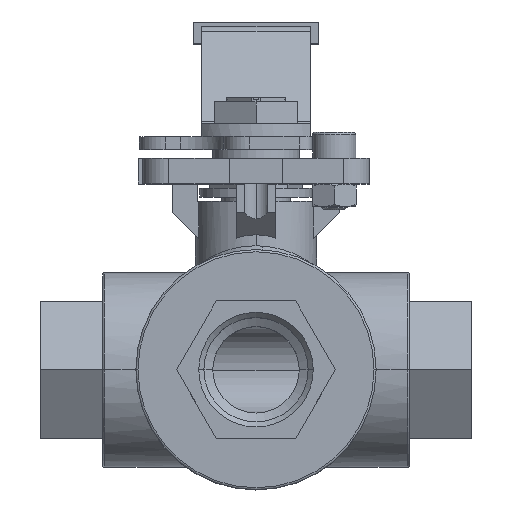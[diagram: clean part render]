
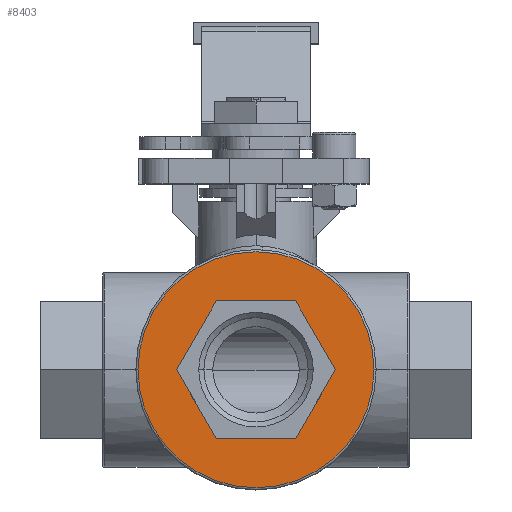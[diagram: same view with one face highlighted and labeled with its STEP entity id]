
A CAD part, top view. The second image highlights one B-rep face of the part: STEP entity #8403.
In plain terms, the highlighted planar face has unit normal (0, 0, 1).
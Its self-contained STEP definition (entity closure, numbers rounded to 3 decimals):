
#70 = ORIENTED_EDGE ( 'NONE', *, *, #278, .F. ) ;
#93 = CARTESIAN_POINT ( 'NONE',  ( 18.36, 0., 35.35 ) ) ;
#278 = EDGE_CURVE ( 'NONE', #7879, #4400, #1746, .T. ) ;
#404 = CARTESIAN_POINT ( 'NONE',  ( 9.18, 15.9, 35.35 ) ) ;
#1745 = DIRECTION ( 'NONE',  ( -1., 0., 0. ) ) ;
#1746 = LINE ( 'NONE', #3525, #6724 ) ;
#1812 = ORIENTED_EDGE ( 'NONE', *, *, #3030, .F. ) ;
#1962 = CARTESIAN_POINT ( 'NONE',  ( 27.3, 0., 35.35 ) ) ;
#2041 = CARTESIAN_POINT ( 'NONE',  ( -9.18, 15.9, 35.35 ) ) ;
#2604 = DIRECTION ( 'NONE',  ( -0.5, 0.866, 0. ) ) ;
#2624 = VECTOR ( 'NONE', #5243, 1000. ) ;
#3030 = EDGE_CURVE ( 'NONE', #3681, #5944, #9713, .T. ) ;
#3096 = PLANE ( 'NONE',  #11505 ) ;
#3258 = EDGE_CURVE ( 'NONE', #10249, #8003, #12798, .T. ) ;
#3288 = CARTESIAN_POINT ( 'NONE',  ( -9.18, -15.9, 35.35 ) ) ;
#3525 = CARTESIAN_POINT ( 'NONE',  ( 18.36, 0., 35.35 ) ) ;
#3578 = EDGE_LOOP ( 'NONE', ( #8166, #9678 ) ) ;
#3681 = VERTEX_POINT ( 'NONE', #12238 ) ;
#4146 = CARTESIAN_POINT ( 'NONE',  ( 0., 0., 35.35 ) ) ;
#4288 = DIRECTION ( 'NONE',  ( 1., 0., 0. ) ) ;
#4400 = VERTEX_POINT ( 'NONE', #404 ) ;
#4825 = DIRECTION ( 'NONE',  ( 0., 0., 1. ) ) ;
#4837 = VECTOR ( 'NONE', #4288, 1000. ) ;
#4890 = ORIENTED_EDGE ( 'NONE', *, *, #10697, .F. ) ;
#5132 = DIRECTION ( 'NONE',  ( 1., 0., 0. ) ) ;
#5243 = DIRECTION ( 'NONE',  ( 0.5, 0.866, 0. ) ) ;
#5305 = CARTESIAN_POINT ( 'NONE',  ( 0., 0., 35.35 ) ) ;
#5442 = CARTESIAN_POINT ( 'NONE',  ( -9.18, -15.9, 35.35 ) ) ;
#5574 = LINE ( 'NONE', #10244, #2624 ) ;
#5778 = FACE_BOUND ( 'NONE', #7848, .T. ) ;
#5944 = VERTEX_POINT ( 'NONE', #11102 ) ;
#6028 = CARTESIAN_POINT ( 'NONE',  ( -18.36, 0., 35.35 ) ) ;
#6275 = CARTESIAN_POINT ( 'NONE',  ( 9.18, -15.9, 35.35 ) ) ;
#6315 = ORIENTED_EDGE ( 'NONE', *, *, #7225, .F. ) ;
#6329 = DIRECTION ( 'NONE',  ( 1., 0., 0. ) ) ;
#6699 = VERTEX_POINT ( 'NONE', #1962 ) ;
#6724 = VECTOR ( 'NONE', #2604, 1000. ) ;
#6897 = AXIS2_PLACEMENT_3D ( 'NONE', #5305, #12311, #6329 ) ;
#7224 = LINE ( 'NONE', #7714, #12533 ) ;
#7225 = EDGE_CURVE ( 'NONE', #4400, #3681, #7224, .T. ) ;
#7282 = EDGE_CURVE ( 'NONE', #6699, #8735, #9879, .T. ) ;
#7505 = FACE_OUTER_BOUND ( 'NONE', #3578, .T. ) ;
#7714 = CARTESIAN_POINT ( 'NONE',  ( 9.18, 15.9, 35.35 ) ) ;
#7848 = EDGE_LOOP ( 'NONE', ( #70, #4890, #11569, #10248, #1812, #6315 ) ) ;
#7879 = VERTEX_POINT ( 'NONE', #93 ) ;
#8003 = VERTEX_POINT ( 'NONE', #6275 ) ;
#8166 = ORIENTED_EDGE ( 'NONE', *, *, #7282, .T. ) ;
#8403 = ADVANCED_FACE ( 'NONE', ( #7505, #5778 ), #3096, .T. ) ;
#8480 = AXIS2_PLACEMENT_3D ( 'NONE', #10823, #4825, #11830 ) ;
#8735 = VERTEX_POINT ( 'NONE', #10691 ) ;
#9012 = EDGE_CURVE ( 'NONE', #8735, #6699, #10164, .T. ) ;
#9500 = DIRECTION ( 'NONE',  ( -0.5, -0.866, 0. ) ) ;
#9678 = ORIENTED_EDGE ( 'NONE', *, *, #9012, .T. ) ;
#9713 = LINE ( 'NONE', #2041, #10019 ) ;
#9858 = VECTOR ( 'NONE', #10065, 1000. ) ;
#9879 = CIRCLE ( 'NONE', #8480, 27.3 ) ;
#10019 = VECTOR ( 'NONE', #9500, 1000. ) ;
#10065 = DIRECTION ( 'NONE',  ( 0.5, -0.866, 0. ) ) ;
#10164 = CIRCLE ( 'NONE', #6897, 27.3 ) ;
#10244 = CARTESIAN_POINT ( 'NONE',  ( 9.18, -15.9, 35.35 ) ) ;
#10248 = ORIENTED_EDGE ( 'NONE', *, *, #12482, .F. ) ;
#10249 = VERTEX_POINT ( 'NONE', #5442 ) ;
#10691 = CARTESIAN_POINT ( 'NONE',  ( -27.3, 0., 35.35 ) ) ;
#10697 = EDGE_CURVE ( 'NONE', #8003, #7879, #5574, .T. ) ;
#10823 = CARTESIAN_POINT ( 'NONE',  ( 0., 0., 35.35 ) ) ;
#11102 = CARTESIAN_POINT ( 'NONE',  ( -18.36, 0., 35.35 ) ) ;
#11143 = DIRECTION ( 'NONE',  ( 0., 0., 1. ) ) ;
#11505 = AXIS2_PLACEMENT_3D ( 'NONE', #4146, #11143, #5132 ) ;
#11569 = ORIENTED_EDGE ( 'NONE', *, *, #3258, .F. ) ;
#11830 = DIRECTION ( 'NONE',  ( 1., 0., 0. ) ) ;
#12238 = CARTESIAN_POINT ( 'NONE',  ( -9.18, 15.9, 35.35 ) ) ;
#12311 = DIRECTION ( 'NONE',  ( 0., 0., 1. ) ) ;
#12482 = EDGE_CURVE ( 'NONE', #5944, #10249, #12514, .T. ) ;
#12514 = LINE ( 'NONE', #6028, #9858 ) ;
#12533 = VECTOR ( 'NONE', #1745, 1000. ) ;
#12798 = LINE ( 'NONE', #3288, #4837 ) ;
